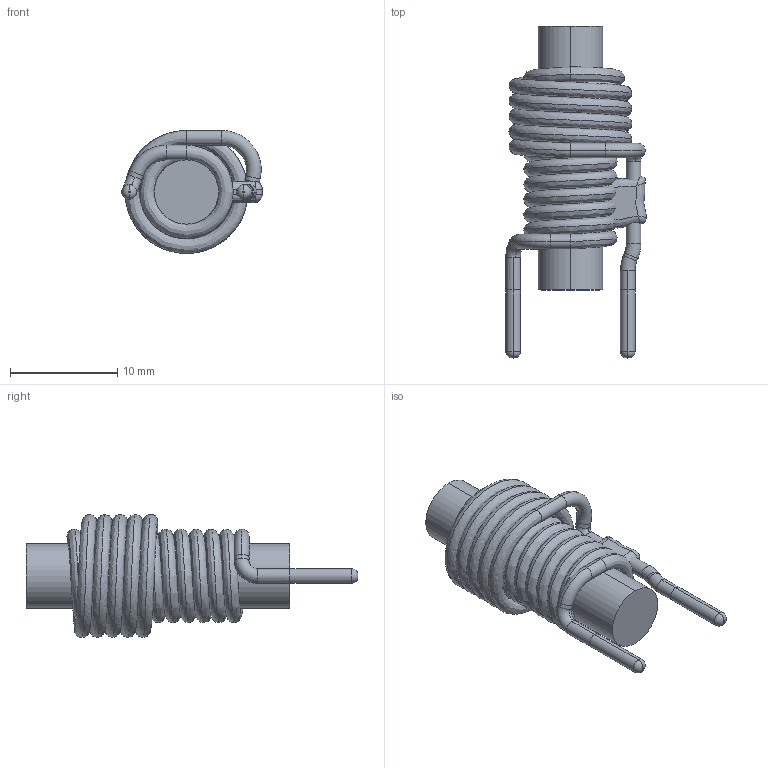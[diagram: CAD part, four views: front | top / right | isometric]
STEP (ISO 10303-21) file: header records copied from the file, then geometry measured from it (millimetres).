
FILE_DESCRIPTION (( 'STEP AP203' ), '1' );
FILE_NAME ('PV-332-10.STEP', '2020-10-01T14:09:45', ( 'Windows User' ), ( '' ), 'SwSTEP 2.0', 'SolidWorks 2015', '' );
FILE_SCHEMA (( 'CONFIG_CONTROL_DESIGN' ));
Length unit declared in the file: millimetre
Products named in the file (1): PV-332-10
Bounding box: 13.1 x 30.99 x 11.48 mm (x, y, z)
Volume: 1403.6 mm3; surface area: 2572.8 mm2
Topology: 9 solids, 9 shells, 74 faces, 150 edges, 90 vertices
Faces by surface type: cylinder 22, plane 19, bspline 17, torus 16
Entity records: 10304 total; most frequent: CARTESIAN_POINT 8785, DIRECTION 306, ORIENTED_EDGE 292, EDGE_CURVE 146, AXIS2_PLACEMENT_3D 140, VERTEX_POINT 90, CIRCLE 82, ADVANCED_FACE 74
